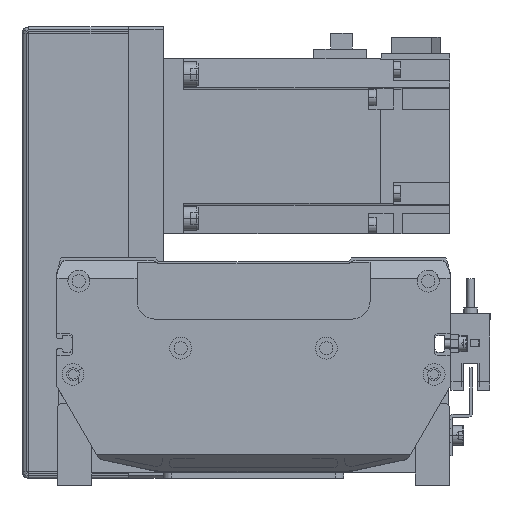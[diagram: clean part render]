
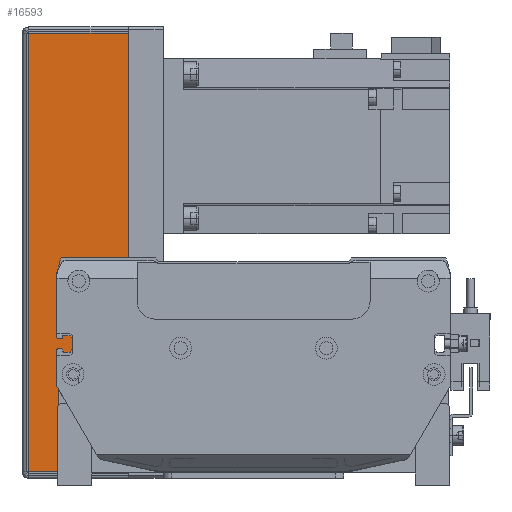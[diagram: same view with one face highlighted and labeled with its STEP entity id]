
A CAD part, front view. The second image highlights one B-rep face of the part: STEP entity #16593.
In plain terms, the highlighted planar face has unit normal (0, -1, 0).
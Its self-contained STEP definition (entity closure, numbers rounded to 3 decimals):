
#2456 = CARTESIAN_POINT ( 'NONE',  ( 115.793, -37., 0. ) ) ;
#5318 = CARTESIAN_POINT ( 'NONE',  ( 118., -37., 34.263 ) ) ;
#5476 = CARTESIAN_POINT ( 'NONE',  ( 115.793, -37., 35. ) ) ;
#7933 = LINE ( 'NONE', #20420, #33305 ) ;
#8637 = EDGE_CURVE ( 'NONE', #32537, #13949, #18498, .T. ) ;
#8708 = VECTOR ( 'NONE', #21938, 1000. ) ;
#11147 = EDGE_CURVE ( 'NONE', #24078, #36127, #7933, .T. ) ;
#12229 = ORIENTED_EDGE ( 'NONE', *, *, #11147, .T. ) ;
#13949 = VERTEX_POINT ( 'NONE', #15565 ) ;
#15565 = CARTESIAN_POINT ( 'NONE',  ( 115.793, -37., 34.263 ) ) ;
#16593 = ADVANCED_FACE ( 'NONE', ( #33137 ), #39026, .F. ) ;
#17326 = LINE ( 'NONE', #5476, #38120 ) ;
#17327 = ORIENTED_EDGE ( 'NONE', *, *, #8637, .F. ) ;
#18498 = LINE ( 'NONE', #5318, #8708 ) ;
#18973 = EDGE_LOOP ( 'NONE', ( #27720, #17327, #20882, #12229 ) ) ;
#19321 = DIRECTION ( 'NONE',  ( 0., 1., 0. ) ) ;
#20420 = CARTESIAN_POINT ( 'NONE',  ( -162.166, -37., 0. ) ) ;
#20882 = ORIENTED_EDGE ( 'NONE', *, *, #21464, .T. ) ;
#21114 = AXIS2_PLACEMENT_3D ( 'NONE', #32516, #19321, #42519 ) ;
#21233 = DIRECTION ( 'NONE',  ( 0., 0., -1. ) ) ;
#21464 = EDGE_CURVE ( 'NONE', #32537, #24078, #39015, .T. ) ;
#21938 = DIRECTION ( 'NONE',  ( 1., 0., 0. ) ) ;
#24078 = VERTEX_POINT ( 'NONE', #24368 ) ;
#24368 = CARTESIAN_POINT ( 'NONE',  ( -34.793, -37., 0. ) ) ;
#24726 = CARTESIAN_POINT ( 'NONE',  ( -34.793, -37., 36.5 ) ) ;
#27720 = ORIENTED_EDGE ( 'NONE', *, *, #28386, .F. ) ;
#28386 = EDGE_CURVE ( 'NONE', #13949, #36127, #17326, .T. ) ;
#32516 = CARTESIAN_POINT ( 'NONE',  ( -162.166, -37., 36.5 ) ) ;
#32537 = VERTEX_POINT ( 'NONE', #36067 ) ;
#33137 = FACE_OUTER_BOUND ( 'NONE', #18973, .T. ) ;
#33305 = VECTOR ( 'NONE', #37110, 1000. ) ;
#36067 = CARTESIAN_POINT ( 'NONE',  ( -34.793, -37., 34.263 ) ) ;
#36127 = VERTEX_POINT ( 'NONE', #2456 ) ;
#37110 = DIRECTION ( 'NONE',  ( 1., 0., 0. ) ) ;
#37416 = VECTOR ( 'NONE', #21233, 1000. ) ;
#38120 = VECTOR ( 'NONE', #42857, 1000. ) ;
#39015 = LINE ( 'NONE', #24726, #37416 ) ;
#39026 = PLANE ( 'NONE',  #21114 ) ;
#42519 = DIRECTION ( 'NONE',  ( 0., 0., 1. ) ) ;
#42857 = DIRECTION ( 'NONE',  ( 0., 0., -1. ) ) ;
